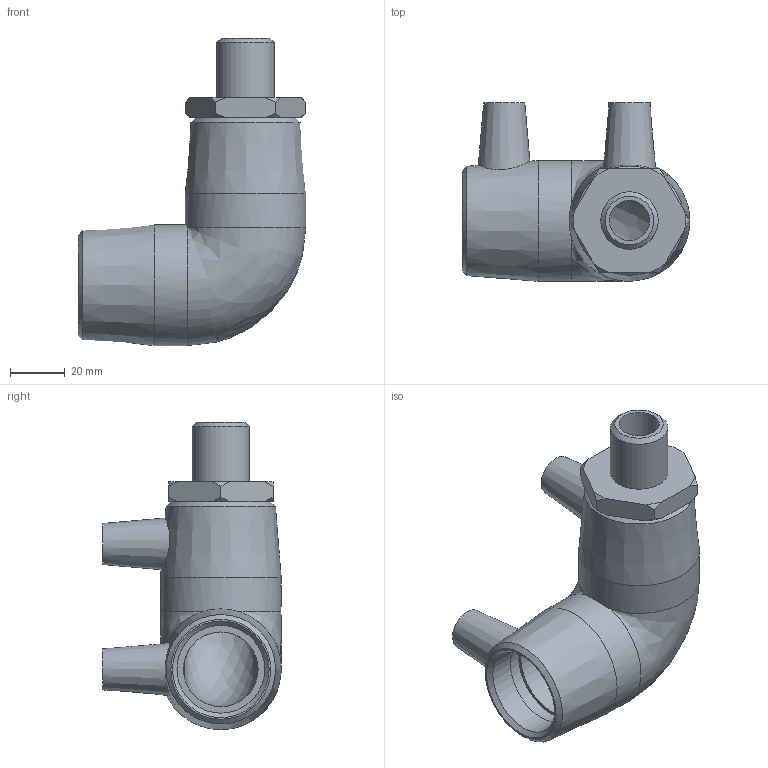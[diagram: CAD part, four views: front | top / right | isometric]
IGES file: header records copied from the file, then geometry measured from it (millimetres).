
Global section: file name: 492504032005.ipt; native system: Autodesk Inventor 2015; preprocessor: unknown; author: KIM; date: 20200202.122331; units: millimetre
Bounding box: 83 x 65 x 112 mm (x, y, z)
Volume: 115103.7 mm3; surface area: 36189.6 mm2
Topology: 1 solids, 2 shells, 59 faces, 143 edges, 96 vertices
Faces by surface type: plane 22, cone 19, revolution 10, cylinder 7, bspline 1
Full cylindrical faces by diameter (mm): 4 x2, 20.955 x1, 32 x2, 44 x2
